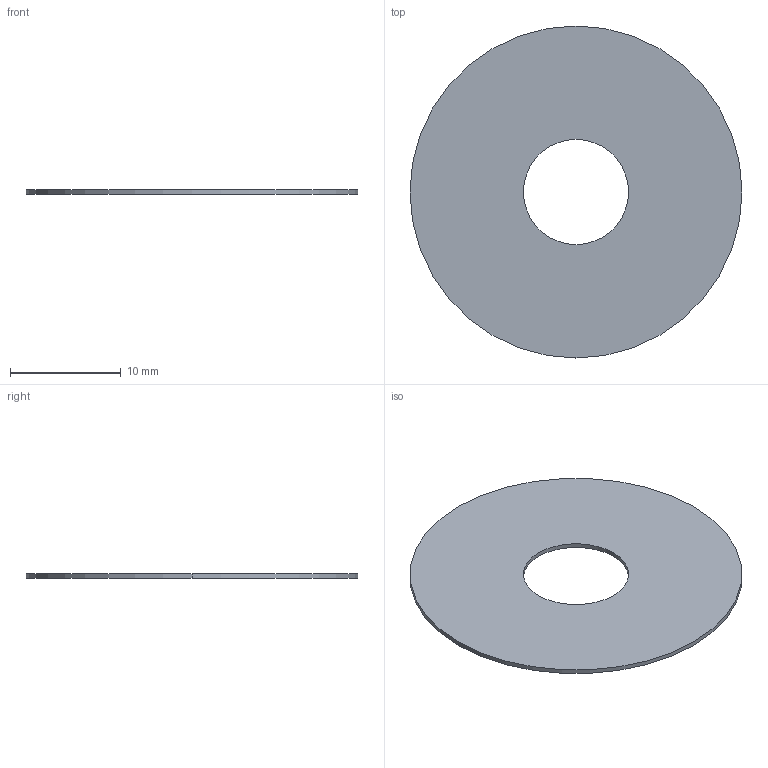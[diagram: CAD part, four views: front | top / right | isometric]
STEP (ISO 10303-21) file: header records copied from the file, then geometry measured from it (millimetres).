
FILE_DESCRIPTION (( 'STEP AP214' ), '1' );
FILE_NAME ('297701.STEP', '2021-10-21T07:41:16', ( '' ), ( '' ), 'SwSTEP 2.0', 'SolidWorks 2018', '' );
FILE_SCHEMA (( 'AUTOMOTIVE_DESIGN' ));
Length unit declared in the file: millimetre
Products named in the file (1): 297701
Bounding box: 30 x 30 x 0.4 mm (x, y, z)
Volume: 254.4 mm3; surface area: 1321.6 mm2
Topology: 1 solids, 1 shells, 6 faces, 12 edges, 8 vertices
Faces by surface type: cylinder 4, plane 2
Entity records: 202 total; most frequent: DIRECTION 34, CARTESIAN_POINT 27, ORIENTED_EDGE 24, AXIS2_PLACEMENT_3D 15, EDGE_CURVE 12, VERTEX_POINT 8, EDGE_LOOP 8, CIRCLE 8
